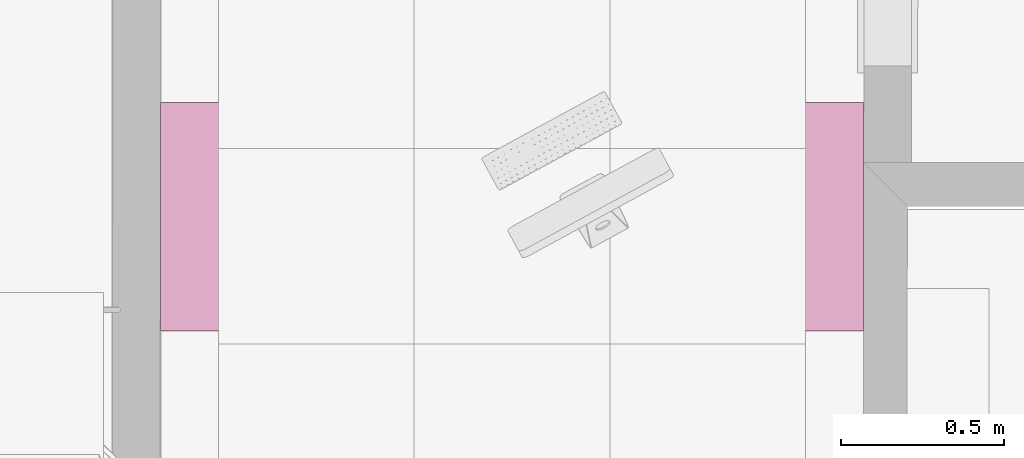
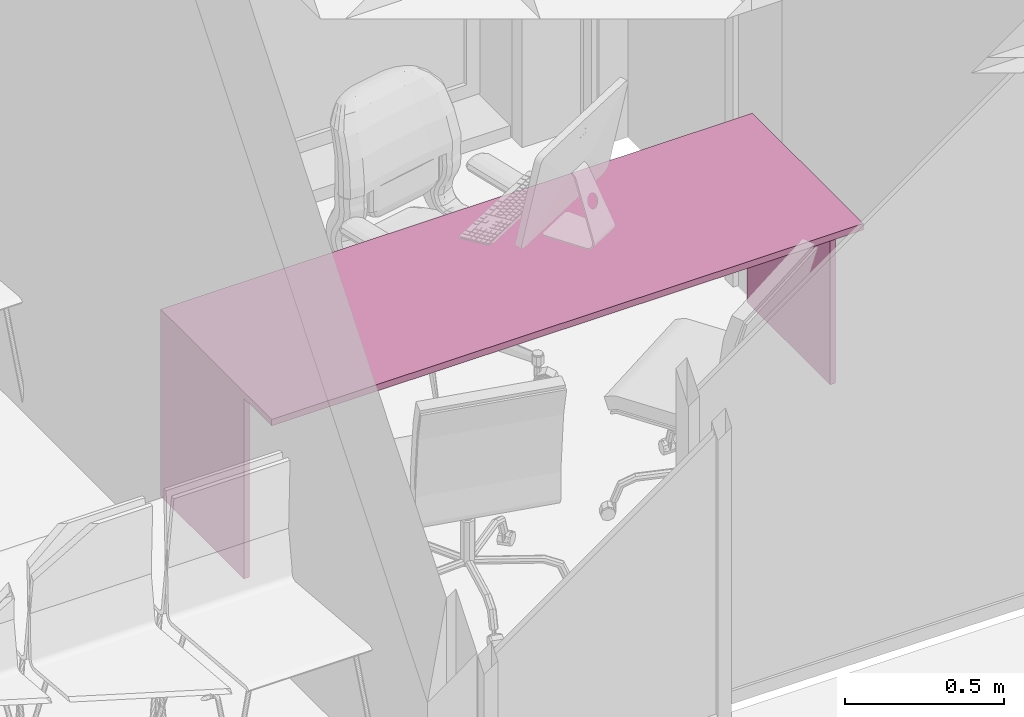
# One storey, part 64 of 68: 1 furnishing.
"""IFC2X3 building model written with IfcOpenShell, lengths in millimetres."""

from ifc_helpers import new_model, entity, si_unit, converted_unit, derived_unit, money_unit, direction, frame, origin_with_axes, place, context, subcontext, project, spatial, faceted_brep, type_object, element, save


model = new_model("IFC2X3")

# Units and contexts
model_context = context("Model", 3, precision=0.01, world=origin_with_axes(), true_north=direction((0.0, 1.0)))
body_context = subcontext(model_context, "Body", "Model", "MODEL_VIEW")
ifc_project = project(units=[si_unit("LENGTHUNIT", "METRE", prefix="MILLI"), si_unit("AREAUNIT", "SQUARE_METRE"), si_unit("VOLUMEUNIT", "CUBIC_METRE"), converted_unit("PLANEANGLEUNIT", "DEGREE", entity("IfcPlaneAngleMeasure", 0.0174532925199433), si_unit("PLANEANGLEUNIT", "RADIAN"), dimensions=[0, 0, 0, 0, 0, 0, 0]), money_unit("USD"), converted_unit("TIMEUNIT", "Year", entity("IfcTimeMeasure", 31557600.0), si_unit("TIMEUNIT", "SECOND"), dimensions=[0, 0, 1, 0, 0, 0, 0]), si_unit("MASSUNIT", "GRAM", prefix="KILO"), si_unit("THERMODYNAMICTEMPERATUREUNIT", "DEGREE_CELSIUS"), si_unit("LUMINOUSINTENSITYUNIT", "LUMEN"), si_unit("ENERGYUNIT", "JOULE", prefix="MEGA"), derived_unit("THERMALCONDUCTANCEUNIT", [(si_unit("POWERUNIT", "WATT"), 1), (si_unit("LENGTHUNIT", "METRE"), -1), (si_unit("THERMODYNAMICTEMPERATUREUNIT", "KELVIN"), -1)]), derived_unit("SPECIFICHEATCAPACITYUNIT", [(si_unit("ENERGYUNIT", "JOULE"), 1), (si_unit("MASSUNIT", "GRAM", prefix="KILO"), -1), (si_unit("THERMODYNAMICTEMPERATUREUNIT", "KELVIN"), -1)]), derived_unit("MASSDENSITYUNIT", [(si_unit("MASSUNIT", "GRAM", prefix="KILO"), 1), (si_unit("VOLUMEUNIT", "CUBIC_METRE"), -1)])], contexts=[model_context])

# Site, building, storey
site_placement = place(None, origin_with_axes())
site = spatial("IfcSite", under=ifc_project, at=site_placement, Name="Sitio", CompositionType="ELEMENT")
building_placement = place(site_placement, origin_with_axes())
building = spatial("IfcBuilding", under=site, at=building_placement, Name="Construcción", CompositionType="ELEMENT")
storey_placement = place(building_placement, origin_with_axes())
storey = spatial("IfcBuildingStorey", under=building, at=storey_placement, Name="PLANTA 1ª", CompositionType="ELEMENT", Elevation=0.0)

# Furnishing
furnishing_element_type = type_object("IfcFurnishingElementType", Name="Escritorio 27")
furnishing_placement = place(storey_placement, frame((-10786.63644068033, -14190.68326357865, 0.0), z_axis=(0.0, 0.0, 1.0), x_axis=(1.0, 0.0, 0.0)))
element("IfcFurnishingElement", 1, at=furnishing_placement, inside=storey, type_object=furnishing_element_type, Name="60.20.51 Armari", context=body_context, shape_type="Brep", body=[
    faceted_brep([(-20.0, 175.0321008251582, 0.0), (-20.0, 700.1284033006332, 0.0), (0.0, 700.1284033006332, 0.0), (0.0, 175.0321008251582, 0.0), (-20.0, 175.0321008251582, 695.0), (-20.0, 700.1284033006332, 695.0), (0.0, 700.1284033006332, 695.0), (0.0, 175.0321008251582, 695.0)], [[[0, 1, 2, 3]], [[0, 4, 5, 1]], [[1, 5, 6, 2]], [[2, 6, 7, 3]], [[3, 7, 4, 0]], [[7, 6, 5, 4]]]),
    faceted_brep([(-2153.791609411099, 175.0321008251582, 0.0), (-2153.791609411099, 700.1284033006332, 0.0), (-2133.791609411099, 700.1284033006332, 0.0), (-2133.791609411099, 175.0321008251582, 0.0), (-2153.791609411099, 175.0321008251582, 695.0), (-2153.791609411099, 700.1284033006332, 695.0), (-2133.791609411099, 700.1284033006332, 695.0), (-2133.791609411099, 175.0321008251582, 695.0)], [[[0, 1, 2, 3]], [[0, 4, 5, 1]], [[1, 5, 6, 2]], [[2, 6, 7, 3]], [[3, 7, 4, 0]], [[7, 6, 5, 4]]]),
    faceted_brep([(-2153.791609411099, 0.0, 695.0), (-2153.791609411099, 700.1284033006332, 695.0), (0.0, 700.1284033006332, 695.0), (0.0, 0.0, 695.0), (-2153.791609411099, 0.0, 720.0), (-2153.791609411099, 700.1284033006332, 720.0), (0.0, 700.1284033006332, 720.0), (0.0, 0.0, 720.0)], [[[0, 1, 2, 3]], [[0, 4, 5, 1]], [[1, 5, 6, 2]], [[2, 6, 7, 3]], [[3, 7, 4, 0]], [[7, 6, 5, 4]]]),
    faceted_brep([(-2133.791609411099, 680.1284033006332, 360.0), (-2133.791609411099, 700.1284033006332, 360.0), (-20.00000000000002, 700.1284033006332, 360.0), (-20.00000000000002, 680.1284033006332, 360.0), (-2133.791609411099, 680.1284033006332, 695.0000000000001), (-2133.791609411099, 700.1284033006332, 695.0000000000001), (-20.00000000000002, 700.1284033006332, 695.0000000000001), (-20.00000000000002, 680.1284033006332, 695.0000000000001)], [[[0, 1, 2, 3]], [[0, 4, 5, 1]], [[1, 5, 6, 2]], [[2, 6, 7, 3]], [[3, 7, 4, 0]], [[7, 6, 5, 4]]]),
])

save(model, "model.ifc")
